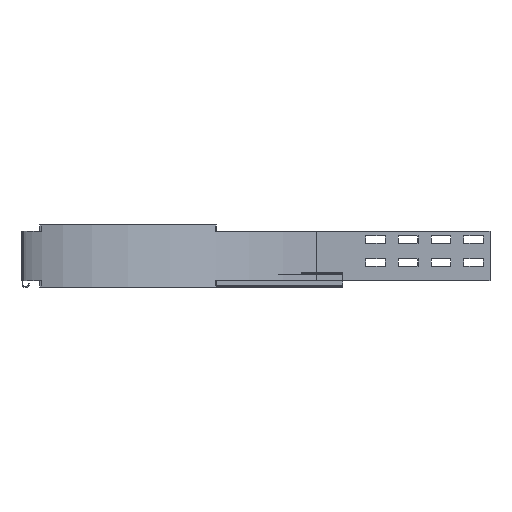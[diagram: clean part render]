
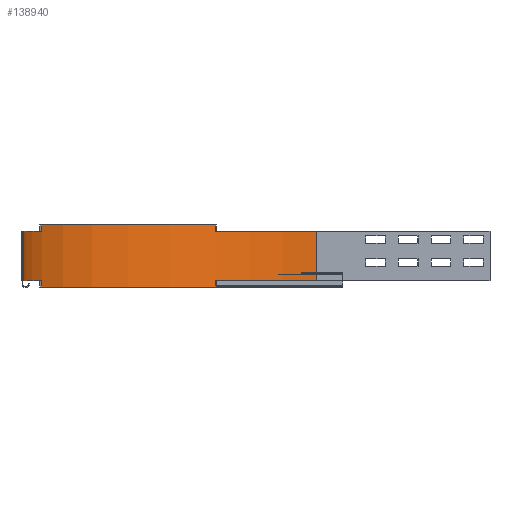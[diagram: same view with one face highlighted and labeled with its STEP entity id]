
A CAD part, left-side view. The second image highlights one B-rep face of the part: STEP entity #138940.
In plain terms, the highlighted cylindrical face has radius 447 mm (diameter 894 mm), a partial arc.
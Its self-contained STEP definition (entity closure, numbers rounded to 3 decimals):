
#116370=CARTESIAN_POINT('',(420.043,-297.117,-50.));
#116380=VERTEX_POINT('',#116370);
#116410=CARTESIAN_POINT('',(0.,-450.,-50.));
#116420=DIRECTION('',(0.,0.,1.));
#116430=DIRECTION('',(1.,0.,0.));
#116440=AXIS2_PLACEMENT_3D('',#116410,#116420,#116430);
#116450=CIRCLE('',#116440,447.);
#116460=CARTESIAN_POINT('',(152.883,-29.957,-50.));
#116470=VERTEX_POINT('',#116460);
#116480=EDGE_CURVE('',#116380,#116470,#116450,.T.);
#118450=CARTESIAN_POINT('',(447.,-450.,-60.));
#118460=VERTEX_POINT('',#118450);
#118510=CARTESIAN_POINT('',(0.,-450.,-60.));
#118520=DIRECTION('',(0.,0.,-1.));
#118530=DIRECTION('',(1.,0.,0.));
#118540=AXIS2_PLACEMENT_3D('',#118510,#118520,#118530);
#118550=CIRCLE('',#118540,447.);
#118560=CARTESIAN_POINT('',(420.043,-297.117,-60.));
#118570=VERTEX_POINT('',#118560);
#118580=EDGE_CURVE('',#118570,#118460,#118550,.T.);
#118990=CARTESIAN_POINT('',(0.,-450.,-145.));
#119000=DIRECTION('',(0.,0.,1.));
#119010=DIRECTION('',(1.,0.,0.));
#119020=AXIS2_PLACEMENT_3D('',#118990,#119000,#119010);
#119030=CIRCLE('',#119020,447.);
#119040=CARTESIAN_POINT('',(420.043,-297.117,-145.));
#119050=VERTEX_POINT('',#119040);
#119060=CARTESIAN_POINT('',(152.883,-29.957,-145.));
#119070=VERTEX_POINT('',#119060);
#119080=EDGE_CURVE('',#119050,#119070,#119030,.T.);
#119410=CARTESIAN_POINT('',(0.,-450.,-135.));
#119420=DIRECTION('',(0.,0.,1.));
#119430=DIRECTION('',(1.,0.,0.));
#119440=AXIS2_PLACEMENT_3D('',#119410,#119420,#119430);
#119450=CIRCLE('',#119440,447.);
#119460=CARTESIAN_POINT('',(152.883,-29.957,-135.));
#119470=VERTEX_POINT('',#119460);
#119480=CARTESIAN_POINT('',(0.,-3.,-135.));
#119490=VERTEX_POINT('',#119480);
#119500=EDGE_CURVE('',#119470,#119490,#119450,.T.);
#128760=CARTESIAN_POINT('',(0.,-3.,0.));
#128770=DIRECTION('',(0.,0.,-1.));
#128780=VECTOR('',#128770,1.);
#128790=LINE('',#128760,#128780);
#128800=CARTESIAN_POINT('',(0.,-3.,-60.));
#128810=VERTEX_POINT('',#128800);
#128820=EDGE_CURVE('',#128810,#119490,#128790,.T.);
#131750=CARTESIAN_POINT('',(447.,-450.,-135.));
#131760=VERTEX_POINT('',#131750);
#131790=CARTESIAN_POINT('',(447.,-450.,0.));
#131800=DIRECTION('',(0.,0.,1.));
#131810=VECTOR('',#131800,1.);
#131820=LINE('',#131790,#131810);
#131830=EDGE_CURVE('',#131760,#118460,#131820,.T.);
#137000=CARTESIAN_POINT('',(420.043,-297.117,-10.));
#137010=DIRECTION('',(0.,0.,1.));
#137020=VECTOR('',#137010,1.);
#137030=LINE('',#137000,#137020);
#137040=EDGE_CURVE('',#118570,#116380,#137030,.T.);
#137170=CARTESIAN_POINT('',(152.883,-29.957,-10.));
#137180=DIRECTION('',(0.,0.,1.));
#137190=VECTOR('',#137180,1.);
#137200=LINE('',#137170,#137190);
#137210=EDGE_CURVE('',#119070,#119470,#137200,.T.);
#137350=CARTESIAN_POINT('',(152.883,-29.957,-60.));
#137360=VERTEX_POINT('',#137350);
#137410=CARTESIAN_POINT('',(152.883,-29.957,-10.));
#137420=DIRECTION('',(0.,0.,1.));
#137430=VECTOR('',#137420,1.);
#137440=LINE('',#137410,#137430);
#137450=EDGE_CURVE('',#137360,#116470,#137440,.T.);
#137610=CARTESIAN_POINT('',(420.043,-297.117,-135.));
#137620=VERTEX_POINT('',#137610);
#137650=CARTESIAN_POINT('',(0.,-450.,-135.));
#137660=DIRECTION('',(0.,0.,1.));
#137670=DIRECTION('',(1.,0.,0.));
#137680=AXIS2_PLACEMENT_3D('',#137650,#137660,#137670);
#137690=CIRCLE('',#137680,447.);
#137700=EDGE_CURVE('',#131760,#137620,#137690,.T.);
#138640=CARTESIAN_POINT('',(0.,-450.,-10.));
#138650=DIRECTION('',(0.,0.,1.));
#138660=DIRECTION('',(1.,0.,0.));
#138670=AXIS2_PLACEMENT_3D('',#138640,#138650,#138660);
#138680=CYLINDRICAL_SURFACE('',#138670,447.);
#138690=ORIENTED_EDGE('',*,*,#119500,.F.);
#138700=ORIENTED_EDGE('',*,*,#128820,.T.);
#138710=CARTESIAN_POINT('',(0.,-450.,-60.));
#138720=DIRECTION('',(0.,0.,-1.));
#138730=DIRECTION('',(1.,0.,0.));
#138740=AXIS2_PLACEMENT_3D('',#138710,#138720,#138730);
#138750=CIRCLE('',#138740,447.);
#138760=EDGE_CURVE('',#128810,#137360,#138750,.T.);
#138770=ORIENTED_EDGE('',*,*,#138760,.F.);
#138780=ORIENTED_EDGE('',*,*,#137450,.F.);
#138790=ORIENTED_EDGE('',*,*,#116480,.T.);
#138800=ORIENTED_EDGE('',*,*,#137040,.T.);
#138810=ORIENTED_EDGE('',*,*,#118580,.F.);
#138820=ORIENTED_EDGE('',*,*,#131830,.T.);
#138830=ORIENTED_EDGE('',*,*,#137700,.F.);
#138840=CARTESIAN_POINT('',(420.043,-297.117,-10.));
#138850=DIRECTION('',(0.,0.,1.));
#138860=VECTOR('',#138850,1.);
#138870=LINE('',#138840,#138860);
#138880=EDGE_CURVE('',#119050,#137620,#138870,.T.);
#138890=ORIENTED_EDGE('',*,*,#138880,.T.);
#138900=ORIENTED_EDGE('',*,*,#119080,.F.);
#138910=ORIENTED_EDGE('',*,*,#137210,.F.);
#138920=EDGE_LOOP('',(#138910,#138900,#138890,#138830,#138820,#138810,
#138800,#138790,#138780,#138770,#138700,#138690));
#138930=FACE_OUTER_BOUND('',#138920,.T.);
#138940=ADVANCED_FACE('',(#138930),#138680,.F.);
